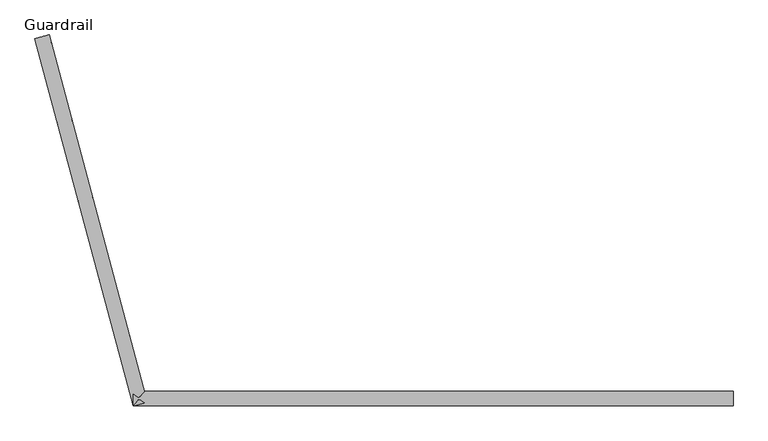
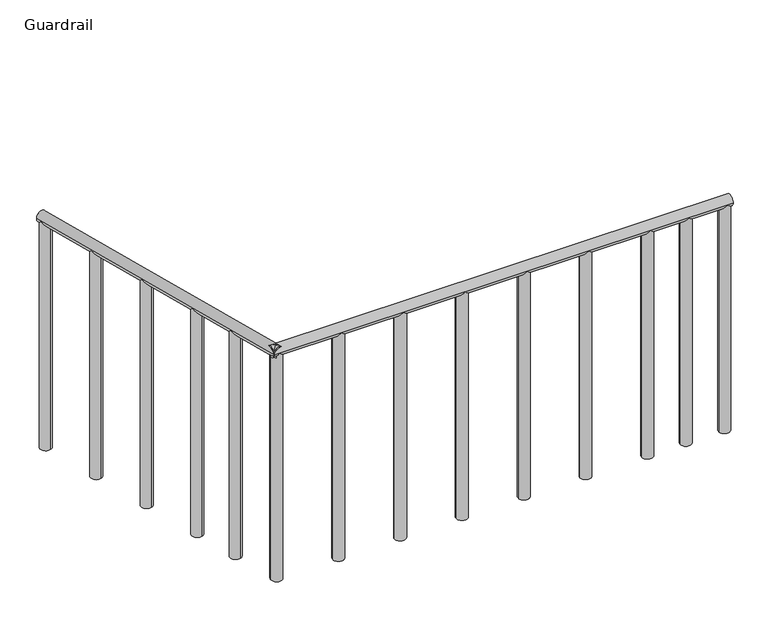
"""IFC4 building model written with IfcOpenShell, lengths in millimetres: railing geometry, Guardrail."""

from ifc_helpers import new_model, si_unit, frame, origin, place, context, project, spatial, circle_curve, ellipse_curve, source, transform, mapped, element, save
from ifc_brep_helpers import plane_surface, cylinder_surface, advanced_brep


def guardrail_6d44fef6(model_context):
    return source(origin(), model_context, "Body", "AdvancedBrep", [
        advanced_brep(
        [(13494.0940528, -4653.5653971, 4749.8), (13494.0940528, -4704.3653971, 4749.8), (15569.084118, -4653.5653971, 4749.8), (15569.084118, -4704.3653971, 4749.8)],
        [
            (0, 1, circle_curve(frame((13494.0940528, -4678.9653971, 4749.8), z_axis=(-1.0, 0.0, 0.0), x_axis=(0.0, 1.0, 0.0)), 25.4)),
            (1, 0, circle_curve(frame((13494.0940528, -4678.9653971, 4749.8), z_axis=(-1.0, 0.0, 0.0), x_axis=(0.0, 1.0, 0.0)), 25.4)),
            (2, 3, circle_curve(frame((15569.084118, -4678.9653971, 4749.8), z_axis=(1.0, 0.0, 0.0), x_axis=(0.0, 1.0, 0.0)), 25.4)),
            (3, 2, circle_curve(frame((15569.084118, -4678.9653971, 4749.8), z_axis=(1.0, 0.0, 0.0), x_axis=(0.0, 1.0, 0.0)), 25.4)),
            (0, 2),
            (3, 1),
        ],
        [
            plane_surface(frame((13494.0940528, -4653.5653971, 4724.4), z_axis=(-1.0, 0.0, 0.0), x_axis=(0.0, -1.0, 0.0))),
            plane_surface(frame((15569.084118, -4653.5653971, 4724.4), z_axis=(1.0, 0.0, 0.0), x_axis=(0.0, 1.0, 0.0))),
            cylinder_surface(frame((15569.084118, -4678.9653971, 4749.8), z_axis=(-1.0, 0.0, 0.0), x_axis=(0.0, 1.0, 0.0)), 25.4),
        ],
        [
            (0, [[1, 2]]),
            (1, [[3, 4]]),
            (2, [[-1, 5, -4, 6]]),
            (2, [[-2, -6, -3, -5]]),
        ],
    ),
        advanced_brep(
        [(15518.284118, -4678.9653971, 3657.6), (15569.084118, -4678.9653971, 3657.6), (15569.084118, -4678.9653971, 4727.8029547), (15565.6811633, -4691.6653971, 4727.8029547), (15521.6870728, -4691.6653971, 4727.8029547), (15518.284118, -4678.9653971, 4727.8029547), (15521.6870728, -4666.2653971, 4727.8029547), (15565.6811633, -4666.2653971, 4727.8029547)],
        [
            (0, 1, circle_curve(frame((15543.684118, -4678.9653971, 3657.6), z_axis=(0.0, 0.0, -1.0), x_axis=(-1.0, 0.0, 0.0)), 25.4)),
            (1, 0, circle_curve(frame((15543.684118, -4678.9653971, 3657.6), z_axis=(0.0, 0.0, -1.0), x_axis=(-1.0, 0.0, 0.0)), 25.4)),
            (2, 3, circle_curve(frame((15543.684118, -4678.9653971, 4727.8029547), z_axis=(0.0, 0.0, -1.0), x_axis=(-1.0, 0.0, 0.0)), 25.4)),
            (3, 4, ellipse_curve(frame((15543.684118, -4678.9653971, 4705.8059095), z_axis=(0.0, -0.8660254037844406, -0.4999999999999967), x_axis=(0.0, -0.4999999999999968, 0.8660254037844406)), 50.8, 25.4)),
            (4, 5, circle_curve(frame((15543.684118, -4678.9653971, 4727.8029547), z_axis=(0.0, 0.0, -1.0), x_axis=(-1.0, 0.0, 0.0)), 25.4)),
            (5, 0),
            (1, 2),
            (5, 6, circle_curve(frame((15543.684118, -4678.9653971, 4727.8029547), z_axis=(0.0, 0.0, -1.0), x_axis=(-1.0, 0.0, 0.0)), 25.4)),
            (6, 7, ellipse_curve(frame((15543.684118, -4678.9653971, 4705.8059095), z_axis=(0.0, 0.8660254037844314, -0.5000000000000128), x_axis=(0.0, 0.5000000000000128, 0.8660254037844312)), 50.8, 25.4)),
            (7, 2, circle_curve(frame((15543.684118, -4678.9653971, 4727.8029547), z_axis=(0.0, 0.0, -1.0), x_axis=(-1.0, 0.0, 0.0)), 25.4)),
            (4, 3),
            (7, 6),
        ],
        [
            plane_surface(frame((15518.284118, -4678.9653971, 3657.6), z_axis=(0.0, 0.0, -1.0), x_axis=(0.0, 1.0, 0.0))),
            cylinder_surface(frame((15543.684118, -4678.9653971, 3657.6), z_axis=(0.0, 0.0, 1.0), x_axis=(-1.0, 0.0, 0.0)), 25.4),
            plane_surface(frame((18617.084118, -4678.9653971, 4727.8029547), z_axis=(0.0, 0.0, 1.0), x_axis=(0.0, 1.0, 0.0))),
            plane_surface(frame((18617.084118, -4698.0153971, 4738.8014774), z_axis=(0.0, 0.8660254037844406, 0.4999999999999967), x_axis=(0.0, 0.4999999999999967, -0.8660254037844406))),
            plane_surface(frame((18617.084118, -4659.9153971, 4738.8014774), z_axis=(0.0, -0.8660254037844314, 0.5000000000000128), x_axis=(0.0, 0.5000000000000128, 0.8660254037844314))),
        ],
        [
            (0, [[1, 2]]),
            (1, [[3, 4, 5, 6, -2, 7]]),
            (1, [[8, 9, 10, -7, -1, -6]]),
            (2, [[-5, 11, -3, -10, 12, -8]]),
            (3, [[-4, -11]]),
            (4, [[-9, -12]]),
        ],
    ),
        advanced_brep(
        [(15344.3890854, -4678.9653971, 3657.6), (15395.1890854, -4678.9653971, 3657.6), (15395.1890854, -4678.9653971, 4727.8029547), (15391.7861307, -4691.6653971, 4727.8029547), (15347.7920402, -4691.6653971, 4727.8029547), (15344.3890854, -4678.9653971, 4727.8029547), (15347.7920402, -4666.2653971, 4727.8029547), (15391.7861307, -4666.2653971, 4727.8029547)],
        [
            (0, 1, circle_curve(frame((15369.7890854, -4678.9653971, 3657.6), z_axis=(0.0, 0.0, -1.0), x_axis=(-1.0, 0.0, 0.0)), 25.4)),
            (1, 0, circle_curve(frame((15369.7890854, -4678.9653971, 3657.6), z_axis=(0.0, 0.0, -1.0), x_axis=(-1.0, 0.0, 0.0)), 25.4)),
            (2, 3, circle_curve(frame((15369.7890854, -4678.9653971, 4727.8029547), z_axis=(0.0, 0.0, -1.0), x_axis=(-1.0, 0.0, 0.0)), 25.4)),
            (3, 4, ellipse_curve(frame((15369.7890854, -4678.9653971, 4705.8059095), z_axis=(0.0, -0.8660254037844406, -0.4999999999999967), x_axis=(0.0, -0.4999999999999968, 0.8660254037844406)), 50.8, 25.4)),
            (4, 5, circle_curve(frame((15369.7890854, -4678.9653971, 4727.8029547), z_axis=(0.0, 0.0, -1.0), x_axis=(-1.0, 0.0, 0.0)), 25.4)),
            (5, 0),
            (1, 2),
            (5, 6, circle_curve(frame((15369.7890854, -4678.9653971, 4727.8029547), z_axis=(0.0, 0.0, -1.0), x_axis=(-1.0, 0.0, 0.0)), 25.4)),
            (6, 7, ellipse_curve(frame((15369.7890854, -4678.9653971, 4705.8059095), z_axis=(0.0, 0.8660254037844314, -0.5000000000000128), x_axis=(0.0, 0.5000000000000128, 0.8660254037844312)), 50.8, 25.4)),
            (7, 2, circle_curve(frame((15369.7890854, -4678.9653971, 4727.8029547), z_axis=(0.0, 0.0, -1.0), x_axis=(-1.0, 0.0, 0.0)), 25.4)),
            (4, 3),
            (7, 6),
        ],
        [
            plane_surface(frame((15344.3890854, -4678.9653971, 3657.6), z_axis=(0.0, 0.0, -1.0), x_axis=(0.0, 1.0, 0.0))),
            cylinder_surface(frame((15369.7890854, -4678.9653971, 3657.6), z_axis=(0.0, 0.0, 1.0), x_axis=(-1.0, 0.0, 0.0)), 25.4),
            plane_surface(frame((18617.084118, -4678.9653971, 4727.8029547), z_axis=(0.0, 0.0, 1.0), x_axis=(0.0, 1.0, 0.0))),
            plane_surface(frame((18617.084118, -4698.0153971, 4738.8014774), z_axis=(0.0, 0.8660254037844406, 0.4999999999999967), x_axis=(0.0, 0.4999999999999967, -0.8660254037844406))),
            plane_surface(frame((18617.084118, -4659.9153971, 4738.8014774), z_axis=(0.0, -0.8660254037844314, 0.5000000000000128), x_axis=(0.0, 0.5000000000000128, 0.8660254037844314))),
        ],
        [
            (0, [[1, 2]]),
            (1, [[3, 4, 5, 6, -2, 7]]),
            (1, [[8, 9, 10, -7, -1, -6]]),
            (2, [[-5, 11, -3, -10, 12, -8]]),
            (3, [[-4, -11]]),
            (4, [[-9, -12]]),
        ],
    ),
        advanced_brep(
        [(15170.4940528, -4678.9653971, 3657.6), (15221.2940528, -4678.9653971, 3657.6), (15221.2940528, -4678.9653971, 4727.8029547), (15217.8910981, -4691.6653971, 4727.8029547), (15173.8970075, -4691.6653971, 4727.8029547), (15170.4940528, -4678.9653971, 4727.8029547), (15173.8970075, -4666.2653971, 4727.8029547), (15217.8910981, -4666.2653971, 4727.8029547)],
        [
            (0, 1, circle_curve(frame((15195.8940528, -4678.9653971, 3657.6), z_axis=(0.0, 0.0, -1.0), x_axis=(-1.0, 0.0, 0.0)), 25.4)),
            (1, 0, circle_curve(frame((15195.8940528, -4678.9653971, 3657.6), z_axis=(0.0, 0.0, -1.0), x_axis=(-1.0, 0.0, 0.0)), 25.4)),
            (2, 3, circle_curve(frame((15195.8940528, -4678.9653971, 4727.8029547), z_axis=(0.0, 0.0, -1.0), x_axis=(-1.0, 0.0, 0.0)), 25.4)),
            (3, 4, ellipse_curve(frame((15195.8940528, -4678.9653971, 4705.8059095), z_axis=(0.0, -0.8660254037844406, -0.4999999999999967), x_axis=(0.0, -0.4999999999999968, 0.8660254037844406)), 50.8, 25.4)),
            (4, 5, circle_curve(frame((15195.8940528, -4678.9653971, 4727.8029547), z_axis=(0.0, 0.0, -1.0), x_axis=(-1.0, 0.0, 0.0)), 25.4)),
            (5, 0),
            (1, 2),
            (5, 6, circle_curve(frame((15195.8940528, -4678.9653971, 4727.8029547), z_axis=(0.0, 0.0, -1.0), x_axis=(-1.0, 0.0, 0.0)), 25.4)),
            (6, 7, ellipse_curve(frame((15195.8940528, -4678.9653971, 4705.8059095), z_axis=(0.0, 0.8660254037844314, -0.5000000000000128), x_axis=(0.0, 0.5000000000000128, 0.8660254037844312)), 50.8, 25.4)),
            (7, 2, circle_curve(frame((15195.8940528, -4678.9653971, 4727.8029547), z_axis=(0.0, 0.0, -1.0), x_axis=(-1.0, 0.0, 0.0)), 25.4)),
            (4, 3),
            (7, 6),
        ],
        [
            plane_surface(frame((15170.4940528, -4678.9653971, 3657.6), z_axis=(0.0, 0.0, -1.0), x_axis=(0.0, 1.0, 0.0))),
            cylinder_surface(frame((15195.8940528, -4678.9653971, 3657.6), z_axis=(0.0, 0.0, 1.0), x_axis=(-1.0, 0.0, 0.0)), 25.4),
            plane_surface(frame((18617.084118, -4678.9653971, 4727.8029547), z_axis=(0.0, 0.0, 1.0), x_axis=(0.0, 1.0, 0.0))),
            plane_surface(frame((18617.084118, -4698.0153971, 4738.8014774), z_axis=(0.0, 0.8660254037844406, 0.4999999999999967), x_axis=(0.0, 0.4999999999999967, -0.8660254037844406))),
            plane_surface(frame((18617.084118, -4659.9153971, 4738.8014774), z_axis=(0.0, -0.8660254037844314, 0.5000000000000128), x_axis=(0.0, 0.5000000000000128, 0.8660254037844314))),
        ],
        [
            (0, [[1, 2]]),
            (1, [[3, 4, 5, 6, -2, 7]]),
            (1, [[8, 9, 10, -7, -1, -6]]),
            (2, [[-5, 11, -3, -10, 12, -8]]),
            (3, [[-4, -11]]),
            (4, [[-9, -12]]),
        ],
    ),
        advanced_brep(
        [(14891.0940528, -4678.9653971, 3657.6), (14941.8940528, -4678.9653971, 3657.6), (14941.8940528, -4678.9653971, 4727.8029547), (14938.4910981, -4691.6653971, 4727.8029547), (14894.4970075, -4691.6653971, 4727.8029547), (14891.0940528, -4678.9653971, 4727.8029547), (14894.4970075, -4666.2653971, 4727.8029547), (14938.4910981, -4666.2653971, 4727.8029547)],
        [
            (0, 1, circle_curve(frame((14916.4940528, -4678.9653971, 3657.6), z_axis=(0.0, 0.0, -1.0), x_axis=(-1.0, 0.0, 0.0)), 25.4)),
            (1, 0, circle_curve(frame((14916.4940528, -4678.9653971, 3657.6), z_axis=(0.0, 0.0, -1.0), x_axis=(-1.0, 0.0, 0.0)), 25.4)),
            (2, 3, circle_curve(frame((14916.4940528, -4678.9653971, 4727.8029547), z_axis=(0.0, 0.0, -1.0), x_axis=(-1.0, 0.0, 0.0)), 25.4)),
            (3, 4, ellipse_curve(frame((14916.4940528, -4678.9653971, 4705.8059095), z_axis=(0.0, -0.8660254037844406, -0.4999999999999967), x_axis=(0.0, -0.4999999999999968, 0.8660254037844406)), 50.8, 25.4)),
            (4, 5, circle_curve(frame((14916.4940528, -4678.9653971, 4727.8029547), z_axis=(0.0, 0.0, -1.0), x_axis=(-1.0, 0.0, 0.0)), 25.4)),
            (5, 0),
            (1, 2),
            (5, 6, circle_curve(frame((14916.4940528, -4678.9653971, 4727.8029547), z_axis=(0.0, 0.0, -1.0), x_axis=(-1.0, 0.0, 0.0)), 25.4)),
            (6, 7, ellipse_curve(frame((14916.4940528, -4678.9653971, 4705.8059095), z_axis=(0.0, 0.8660254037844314, -0.5000000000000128), x_axis=(0.0, 0.5000000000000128, 0.8660254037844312)), 50.8, 25.4)),
            (7, 2, circle_curve(frame((14916.4940528, -4678.9653971, 4727.8029547), z_axis=(0.0, 0.0, -1.0), x_axis=(-1.0, 0.0, 0.0)), 25.4)),
            (4, 3),
            (7, 6),
        ],
        [
            plane_surface(frame((14891.0940528, -4678.9653971, 3657.6), z_axis=(0.0, 0.0, -1.0), x_axis=(0.0, 1.0, 0.0))),
            cylinder_surface(frame((14916.4940528, -4678.9653971, 3657.6), z_axis=(0.0, 0.0, 1.0), x_axis=(-1.0, 0.0, 0.0)), 25.4),
            plane_surface(frame((18617.084118, -4678.9653971, 4727.8029547), z_axis=(0.0, 0.0, 1.0), x_axis=(0.0, 1.0, 0.0))),
            plane_surface(frame((18617.084118, -4698.0153971, 4738.8014774), z_axis=(0.0, 0.8660254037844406, 0.4999999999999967), x_axis=(0.0, 0.4999999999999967, -0.8660254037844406))),
            plane_surface(frame((18617.084118, -4659.9153971, 4738.8014774), z_axis=(0.0, -0.8660254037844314, 0.5000000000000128), x_axis=(0.0, 0.5000000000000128, 0.8660254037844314))),
        ],
        [
            (0, [[1, 2]]),
            (1, [[3, 4, 5, 6, -2, 7]]),
            (1, [[8, 9, 10, -7, -1, -6]]),
            (2, [[-5, 11, -3, -10, 12, -8]]),
            (3, [[-4, -11]]),
            (4, [[-9, -12]]),
        ],
    ),
        advanced_brep(
        [(14611.6940528, -4678.9653971, 3657.6), (14662.4940528, -4678.9653971, 3657.6), (14662.4940528, -4678.9653971, 4727.8029547), (14659.0910981, -4691.6653971, 4727.8029547), (14615.0970075, -4691.6653971, 4727.8029547), (14611.6940528, -4678.9653971, 4727.8029547), (14615.0970075, -4666.2653971, 4727.8029547), (14659.0910981, -4666.2653971, 4727.8029547)],
        [
            (0, 1, circle_curve(frame((14637.0940528, -4678.9653971, 3657.6), z_axis=(0.0, 0.0, -1.0), x_axis=(-1.0, 0.0, 0.0)), 25.4)),
            (1, 0, circle_curve(frame((14637.0940528, -4678.9653971, 3657.6), z_axis=(0.0, 0.0, -1.0), x_axis=(-1.0, 0.0, 0.0)), 25.4)),
            (2, 3, circle_curve(frame((14637.0940528, -4678.9653971, 4727.8029547), z_axis=(0.0, 0.0, -1.0), x_axis=(-1.0, 0.0, 0.0)), 25.4)),
            (3, 4, ellipse_curve(frame((14637.0940528, -4678.9653971, 4705.8059095), z_axis=(0.0, -0.8660254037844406, -0.4999999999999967), x_axis=(0.0, -0.4999999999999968, 0.8660254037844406)), 50.8, 25.4)),
            (4, 5, circle_curve(frame((14637.0940528, -4678.9653971, 4727.8029547), z_axis=(0.0, 0.0, -1.0), x_axis=(-1.0, 0.0, 0.0)), 25.4)),
            (5, 0),
            (1, 2),
            (5, 6, circle_curve(frame((14637.0940528, -4678.9653971, 4727.8029547), z_axis=(0.0, 0.0, -1.0), x_axis=(-1.0, 0.0, 0.0)), 25.4)),
            (6, 7, ellipse_curve(frame((14637.0940528, -4678.9653971, 4705.8059095), z_axis=(0.0, 0.8660254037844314, -0.5000000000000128), x_axis=(0.0, 0.5000000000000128, 0.8660254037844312)), 50.8, 25.4)),
            (7, 2, circle_curve(frame((14637.0940528, -4678.9653971, 4727.8029547), z_axis=(0.0, 0.0, -1.0), x_axis=(-1.0, 0.0, 0.0)), 25.4)),
            (4, 3),
            (7, 6),
        ],
        [
            plane_surface(frame((14611.6940528, -4678.9653971, 3657.6), z_axis=(0.0, 0.0, -1.0), x_axis=(0.0, 1.0, 0.0))),
            cylinder_surface(frame((14637.0940528, -4678.9653971, 3657.6), z_axis=(0.0, 0.0, 1.0), x_axis=(-1.0, 0.0, 0.0)), 25.4),
            plane_surface(frame((18617.084118, -4678.9653971, 4727.8029547), z_axis=(0.0, 0.0, 1.0), x_axis=(0.0, 1.0, 0.0))),
            plane_surface(frame((18617.084118, -4698.0153971, 4738.8014774), z_axis=(0.0, 0.8660254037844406, 0.4999999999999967), x_axis=(0.0, 0.4999999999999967, -0.8660254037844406))),
            plane_surface(frame((18617.084118, -4659.9153971, 4738.8014774), z_axis=(0.0, -0.8660254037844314, 0.5000000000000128), x_axis=(0.0, 0.5000000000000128, 0.8660254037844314))),
        ],
        [
            (0, [[1, 2]]),
            (1, [[3, 4, 5, 6, -2, 7]]),
            (1, [[8, 9, 10, -7, -1, -6]]),
            (2, [[-5, 11, -3, -10, 12, -8]]),
            (3, [[-4, -11]]),
            (4, [[-9, -12]]),
        ],
    ),
        advanced_brep(
        [(14332.2940528, -4678.9653971, 3657.6), (14383.0940528, -4678.9653971, 3657.6), (14383.0940528, -4678.9653971, 4727.8029547), (14379.6910981, -4691.6653971, 4727.8029547), (14335.6970075, -4691.6653971, 4727.8029547), (14332.2940528, -4678.9653971, 4727.8029547), (14335.6970075, -4666.2653971, 4727.8029547), (14379.6910981, -4666.2653971, 4727.8029547)],
        [
            (0, 1, circle_curve(frame((14357.6940528, -4678.9653971, 3657.6), z_axis=(0.0, 0.0, -1.0), x_axis=(-1.0, 0.0, 0.0)), 25.4)),
            (1, 0, circle_curve(frame((14357.6940528, -4678.9653971, 3657.6), z_axis=(0.0, 0.0, -1.0), x_axis=(-1.0, 0.0, 0.0)), 25.4)),
            (2, 3, circle_curve(frame((14357.6940528, -4678.9653971, 4727.8029547), z_axis=(0.0, 0.0, -1.0), x_axis=(-1.0, 0.0, 0.0)), 25.4)),
            (3, 4, ellipse_curve(frame((14357.6940528, -4678.9653971, 4705.8059095), z_axis=(0.0, -0.8660254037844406, -0.4999999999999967), x_axis=(0.0, -0.4999999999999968, 0.8660254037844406)), 50.8, 25.4)),
            (4, 5, circle_curve(frame((14357.6940528, -4678.9653971, 4727.8029547), z_axis=(0.0, 0.0, -1.0), x_axis=(-1.0, 0.0, 0.0)), 25.4)),
            (5, 0),
            (1, 2),
            (5, 6, circle_curve(frame((14357.6940528, -4678.9653971, 4727.8029547), z_axis=(0.0, 0.0, -1.0), x_axis=(-1.0, 0.0, 0.0)), 25.4)),
            (6, 7, ellipse_curve(frame((14357.6940528, -4678.9653971, 4705.8059095), z_axis=(0.0, 0.8660254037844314, -0.5000000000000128), x_axis=(0.0, 0.5000000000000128, 0.8660254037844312)), 50.8, 25.4)),
            (7, 2, circle_curve(frame((14357.6940528, -4678.9653971, 4727.8029547), z_axis=(0.0, 0.0, -1.0), x_axis=(-1.0, 0.0, 0.0)), 25.4)),
            (4, 3),
            (7, 6),
        ],
        [
            plane_surface(frame((14332.2940528, -4678.9653971, 3657.6), z_axis=(0.0, 0.0, -1.0), x_axis=(0.0, 1.0, 0.0))),
            cylinder_surface(frame((14357.6940528, -4678.9653971, 3657.6), z_axis=(0.0, 0.0, 1.0), x_axis=(-1.0, 0.0, 0.0)), 25.4),
            plane_surface(frame((18617.084118, -4678.9653971, 4727.8029547), z_axis=(0.0, 0.0, 1.0), x_axis=(0.0, 1.0, 0.0))),
            plane_surface(frame((18617.084118, -4698.0153971, 4738.8014774), z_axis=(0.0, 0.8660254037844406, 0.4999999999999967), x_axis=(0.0, 0.4999999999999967, -0.8660254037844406))),
            plane_surface(frame((18617.084118, -4659.9153971, 4738.8014774), z_axis=(0.0, -0.8660254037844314, 0.5000000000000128), x_axis=(0.0, 0.5000000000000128, 0.8660254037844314))),
        ],
        [
            (0, [[1, 2]]),
            (1, [[3, 4, 5, 6, -2, 7]]),
            (1, [[8, 9, 10, -7, -1, -6]]),
            (2, [[-5, 11, -3, -10, 12, -8]]),
            (3, [[-4, -11]]),
            (4, [[-9, -12]]),
        ],
    ),
        advanced_brep(
        [(14052.8940528, -4678.9653971, 3657.6), (14103.6940528, -4678.9653971, 3657.6), (14103.6940528, -4678.9653971, 4727.8029547), (14100.2910981, -4691.6653971, 4727.8029547), (14056.2970075, -4691.6653971, 4727.8029547), (14052.8940528, -4678.9653971, 4727.8029547), (14056.2970075, -4666.2653971, 4727.8029547), (14100.2910981, -4666.2653971, 4727.8029547)],
        [
            (0, 1, circle_curve(frame((14078.2940528, -4678.9653971, 3657.6), z_axis=(0.0, 0.0, -1.0), x_axis=(-1.0, 0.0, 0.0)), 25.4)),
            (1, 0, circle_curve(frame((14078.2940528, -4678.9653971, 3657.6), z_axis=(0.0, 0.0, -1.0), x_axis=(-1.0, 0.0, 0.0)), 25.4)),
            (2, 3, circle_curve(frame((14078.2940528, -4678.9653971, 4727.8029547), z_axis=(0.0, 0.0, -1.0), x_axis=(-1.0, 0.0, 0.0)), 25.4)),
            (3, 4, ellipse_curve(frame((14078.2940528, -4678.9653971, 4705.8059095), z_axis=(0.0, -0.8660254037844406, -0.4999999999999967), x_axis=(0.0, -0.4999999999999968, 0.8660254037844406)), 50.8, 25.4)),
            (4, 5, circle_curve(frame((14078.2940528, -4678.9653971, 4727.8029547), z_axis=(0.0, 0.0, -1.0), x_axis=(-1.0, 0.0, 0.0)), 25.4)),
            (5, 0),
            (1, 2),
            (5, 6, circle_curve(frame((14078.2940528, -4678.9653971, 4727.8029547), z_axis=(0.0, 0.0, -1.0), x_axis=(-1.0, 0.0, 0.0)), 25.4)),
            (6, 7, ellipse_curve(frame((14078.2940528, -4678.9653971, 4705.8059095), z_axis=(0.0, 0.8660254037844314, -0.5000000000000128), x_axis=(0.0, 0.5000000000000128, 0.8660254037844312)), 50.8, 25.4)),
            (7, 2, circle_curve(frame((14078.2940528, -4678.9653971, 4727.8029547), z_axis=(0.0, 0.0, -1.0), x_axis=(-1.0, 0.0, 0.0)), 25.4)),
            (4, 3),
            (7, 6),
        ],
        [
            plane_surface(frame((14052.8940528, -4678.9653971, 3657.6), z_axis=(0.0, 0.0, -1.0), x_axis=(0.0, 1.0, 0.0))),
            cylinder_surface(frame((14078.2940528, -4678.9653971, 3657.6), z_axis=(0.0, 0.0, 1.0), x_axis=(-1.0, 0.0, 0.0)), 25.4),
            plane_surface(frame((18617.084118, -4678.9653971, 4727.8029547), z_axis=(0.0, 0.0, 1.0), x_axis=(0.0, 1.0, 0.0))),
            plane_surface(frame((18617.084118, -4698.0153971, 4738.8014774), z_axis=(0.0, 0.8660254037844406, 0.4999999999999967), x_axis=(0.0, 0.4999999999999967, -0.8660254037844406))),
            plane_surface(frame((18617.084118, -4659.9153971, 4738.8014774), z_axis=(0.0, -0.8660254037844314, 0.5000000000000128), x_axis=(0.0, 0.5000000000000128, 0.8660254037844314))),
        ],
        [
            (0, [[1, 2]]),
            (1, [[3, 4, 5, 6, -2, 7]]),
            (1, [[8, 9, 10, -7, -1, -6]]),
            (2, [[-5, 11, -3, -10, 12, -8]]),
            (3, [[-4, -11]]),
            (4, [[-9, -12]]),
        ],
    ),
        advanced_brep(
        [(13773.4940528, -4678.9653971, 3657.6), (13824.2940528, -4678.9653971, 3657.6), (13824.2940528, -4678.9653971, 4727.8029547), (13820.8910981, -4691.6653971, 4727.8029547), (13776.8970075, -4691.6653971, 4727.8029547), (13773.4940528, -4678.9653971, 4727.8029547), (13776.8970075, -4666.2653971, 4727.8029547), (13820.8910981, -4666.2653971, 4727.8029547)],
        [
            (0, 1, circle_curve(frame((13798.8940528, -4678.9653971, 3657.6), z_axis=(0.0, 0.0, -1.0), x_axis=(-1.0, 0.0, 0.0)), 25.4)),
            (1, 0, circle_curve(frame((13798.8940528, -4678.9653971, 3657.6), z_axis=(0.0, 0.0, -1.0), x_axis=(-1.0, 0.0, 0.0)), 25.4)),
            (2, 3, circle_curve(frame((13798.8940528, -4678.9653971, 4727.8029547), z_axis=(0.0, 0.0, -1.0), x_axis=(-1.0, 0.0, 0.0)), 25.4)),
            (3, 4, ellipse_curve(frame((13798.8940528, -4678.9653971, 4705.8059095), z_axis=(0.0, -0.8660254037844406, -0.4999999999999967), x_axis=(0.0, -0.4999999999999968, 0.8660254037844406)), 50.8, 25.4)),
            (4, 5, circle_curve(frame((13798.8940528, -4678.9653971, 4727.8029547), z_axis=(0.0, 0.0, -1.0), x_axis=(-1.0, 0.0, 0.0)), 25.4)),
            (5, 0),
            (1, 2),
            (5, 6, circle_curve(frame((13798.8940528, -4678.9653971, 4727.8029547), z_axis=(0.0, 0.0, -1.0), x_axis=(-1.0, 0.0, 0.0)), 25.4)),
            (6, 7, ellipse_curve(frame((13798.8940528, -4678.9653971, 4705.8059095), z_axis=(0.0, 0.8660254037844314, -0.5000000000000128), x_axis=(0.0, 0.5000000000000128, 0.8660254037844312)), 50.8, 25.4)),
            (7, 2, circle_curve(frame((13798.8940528, -4678.9653971, 4727.8029547), z_axis=(0.0, 0.0, -1.0), x_axis=(-1.0, 0.0, 0.0)), 25.4)),
            (4, 3),
            (7, 6),
        ],
        [
            plane_surface(frame((13773.4940528, -4678.9653971, 3657.6), z_axis=(0.0, 0.0, -1.0), x_axis=(0.0, 1.0, 0.0))),
            cylinder_surface(frame((13798.8940528, -4678.9653971, 3657.6), z_axis=(0.0, 0.0, 1.0), x_axis=(-1.0, 0.0, 0.0)), 25.4),
            plane_surface(frame((18617.084118, -4678.9653971, 4727.8029547), z_axis=(0.0, 0.0, 1.0), x_axis=(0.0, 1.0, 0.0))),
            plane_surface(frame((18617.084118, -4698.0153971, 4738.8014774), z_axis=(0.0, 0.8660254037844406, 0.4999999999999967), x_axis=(0.0, 0.4999999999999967, -0.8660254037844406))),
            plane_surface(frame((18617.084118, -4659.9153971, 4738.8014774), z_axis=(0.0, -0.8660254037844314, 0.5000000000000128), x_axis=(0.0, 0.5000000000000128, 0.8660254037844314))),
        ],
        [
            (0, [[1, 2]]),
            (1, [[3, 4, 5, 6, -2, 7]]),
            (1, [[8, 9, 10, -7, -1, -6]]),
            (2, [[-5, 11, -3, -10, 12, -8]]),
            (3, [[-4, -11]]),
            (4, [[-9, -12]]),
        ],
    ),
        advanced_brep(
        [(13494.0940528, -4678.9653971, 3657.6), (13544.8940528, -4678.9653971, 3657.6), (13544.8940528, -4678.9653971, 4727.8029547), (13541.4910981, -4691.6653971, 4727.8029547), (13497.4970075, -4691.6653971, 4727.8029547), (13494.0940528, -4678.9653971, 4727.8029547), (13497.4970075, -4666.2653971, 4727.8029547), (13541.4910981, -4666.2653971, 4727.8029547)],
        [
            (0, 1, circle_curve(frame((13519.4940528, -4678.9653971, 3657.6), z_axis=(0.0, 0.0, -1.0), x_axis=(-1.0, 0.0, 0.0)), 25.4)),
            (1, 0, circle_curve(frame((13519.4940528, -4678.9653971, 3657.6), z_axis=(0.0, 0.0, -1.0), x_axis=(-1.0, 0.0, 0.0)), 25.4)),
            (2, 3, circle_curve(frame((13519.4940528, -4678.9653971, 4727.8029547), z_axis=(0.0, 0.0, -1.0), x_axis=(-1.0, 0.0, 0.0)), 25.4)),
            (3, 4, ellipse_curve(frame((13519.4940528, -4678.9653971, 4705.8059095), z_axis=(0.0, -0.8660254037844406, -0.4999999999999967), x_axis=(0.0, -0.4999999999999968, 0.8660254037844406)), 50.8, 25.4)),
            (4, 5, circle_curve(frame((13519.4940528, -4678.9653971, 4727.8029547), z_axis=(0.0, 0.0, -1.0), x_axis=(-1.0, 0.0, 0.0)), 25.4)),
            (5, 0),
            (1, 2),
            (5, 6, circle_curve(frame((13519.4940528, -4678.9653971, 4727.8029547), z_axis=(0.0, 0.0, -1.0), x_axis=(-1.0, 0.0, 0.0)), 25.4)),
            (6, 7, ellipse_curve(frame((13519.4940528, -4678.9653971, 4705.8059095), z_axis=(0.0, 0.8660254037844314, -0.5000000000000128), x_axis=(0.0, 0.5000000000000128, 0.8660254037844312)), 50.8, 25.4)),
            (7, 2, circle_curve(frame((13519.4940528, -4678.9653971, 4727.8029547), z_axis=(0.0, 0.0, -1.0), x_axis=(-1.0, 0.0, 0.0)), 25.4)),
            (4, 3),
            (7, 6),
        ],
        [
            plane_surface(frame((13494.0940528, -4678.9653971, 3657.6), z_axis=(0.0, 0.0, -1.0), x_axis=(0.0, 1.0, 0.0))),
            cylinder_surface(frame((13519.4940528, -4678.9653971, 3657.6), z_axis=(0.0, 0.0, 1.0), x_axis=(-1.0, 0.0, 0.0)), 25.4),
            plane_surface(frame((18617.084118, -4678.9653971, 4727.8029547), z_axis=(0.0, 0.0, 1.0), x_axis=(0.0, 1.0, 0.0))),
            plane_surface(frame((18617.084118, -4698.0153971, 4738.8014774), z_axis=(0.0, 0.8660254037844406, 0.4999999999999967), x_axis=(0.0, 0.4999999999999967, -0.8660254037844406))),
            plane_surface(frame((18617.084118, -4659.9153971, 4738.8014774), z_axis=(0.0, -0.8660254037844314, 0.5000000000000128), x_axis=(0.0, 0.5000000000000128, 0.8660254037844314))),
        ],
        [
            (0, [[1, 2]]),
            (1, [[3, 4, 5, 6, -2, 7]]),
            (1, [[8, 9, 10, -7, -1, -6]]),
            (2, [[-5, 11, -3, -10, 12, -8]]),
            (3, [[-4, -11]]),
            (4, [[-9, -12]]),
        ],
    ),
        advanced_brep(
        [(13202.8099085, -3421.0020434, 4749.8), (13153.7408766, -3434.1500509, 4749.8), (13543.1630848, -4691.2173896, 4749.8), (13494.0940528, -4704.3653971, 4749.8)],
        [
            (0, 1, circle_curve(frame((13178.2753926, -3427.5760471, 4749.8), z_axis=(-0.2588190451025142, 0.9659258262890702, 0.0), x_axis=(0.96592582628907, 0.25881904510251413, 0.0)), 25.4)),
            (1, 0, circle_curve(frame((13178.2753926, -3427.5760471, 4749.8), z_axis=(-0.2588190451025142, 0.9659258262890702, 0.0), x_axis=(0.96592582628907, 0.25881904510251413, 0.0)), 25.4)),
            (2, 3, circle_curve(frame((13518.6285688, -4697.7913934, 4749.8), z_axis=(0.2588190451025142, -0.9659258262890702, 0.0), x_axis=(0.96592582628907, 0.25881904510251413, 0.0)), 25.4)),
            (3, 2, circle_curve(frame((13518.6285688, -4697.7913934, 4749.8), z_axis=(0.2588190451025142, -0.9659258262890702, 0.0), x_axis=(0.96592582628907, 0.25881904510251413, 0.0)), 25.4)),
            (0, 2),
            (3, 1),
        ],
        [
            plane_surface(frame((13202.8099085, -3421.0020434, 4724.4), z_axis=(-0.25881904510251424, 0.9659258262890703, 0.0), x_axis=(0.9659258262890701, 0.2588190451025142, 0.0))),
            plane_surface(frame((13543.1630848, -4691.2173896, 4724.4), z_axis=(0.25881904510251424, -0.9659258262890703, 0.0), x_axis=(0.9659258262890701, 0.2588190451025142, 0.0))),
            cylinder_surface(frame((13518.6285688, -4697.7913934, 4749.8), z_axis=(-0.25881904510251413, 0.96592582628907, 0.0), x_axis=(0.96592582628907, 0.25881904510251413, 0.0)), 25.4),
        ],
        [
            (0, [[1, 2]]),
            (1, [[3, 4]]),
            (2, [[-1, 5, -4, 6]]),
            (2, [[-2, -6, -3, -5]]),
        ],
    ),
        advanced_brep(
        [(13450.3490387, -4442.968718, 3657.6), (13463.4970462, -4492.03775, 3657.6), (13463.4970462, -4492.03775, 4727.8029547), (13450.3490387, -4492.03775, 4727.8029547), (13438.9625302, -4449.5427218, 4727.8029547), (13450.3490387, -4442.968718, 4727.8029547), (13463.4970462, -4442.968718, 4727.8029547), (13474.8835547, -4485.4637463, 4727.8029547)],
        [
            (0, 1, circle_curve(frame((13456.9230425, -4467.503234, 3657.6), z_axis=(0.0, 0.0, -1.0), x_axis=(-0.25881904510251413, 0.96592582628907, 0.0)), 25.4)),
            (1, 0, circle_curve(frame((13456.9230425, -4467.503234, 3657.6), z_axis=(0.0, 0.0, -1.0), x_axis=(-0.25881904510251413, 0.96592582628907, 0.0)), 25.4)),
            (2, 3, circle_curve(frame((13456.9230425, -4467.503234, 4727.8029547), z_axis=(0.0, 0.0, -1.0), x_axis=(-0.25881904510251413, 0.96592582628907, 0.0)), 25.4)),
            (3, 4, ellipse_curve(frame((13456.9230425, -4467.503234, 4705.8059095), z_axis=(-0.8365163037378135, -0.22414386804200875, -0.49999999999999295), x_axis=(-0.4829629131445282, -0.12940952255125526, 0.8660254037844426)), 50.8, 25.4)),
            (4, 5, circle_curve(frame((13456.9230425, -4467.503234, 4727.8029547), z_axis=(0.0, 0.0, -1.0), x_axis=(-0.25881904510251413, 0.96592582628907, 0.0)), 25.4)),
            (5, 0),
            (1, 2),
            (5, 6, circle_curve(frame((13456.9230425, -4467.503234, 4727.8029547), z_axis=(0.0, 0.0, -1.0), x_axis=(-0.25881904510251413, 0.96592582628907, 0.0)), 25.4)),
            (6, 7, ellipse_curve(frame((13456.9230425, -4467.503234, 4705.8059095), z_axis=(0.8365163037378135, 0.22414386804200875, -0.49999999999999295), x_axis=(0.4829629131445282, 0.12940952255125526, 0.8660254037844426)), 50.8, 25.4)),
            (7, 2, circle_curve(frame((13456.9230425, -4467.503234, 4727.8029547), z_axis=(0.0, 0.0, -1.0), x_axis=(-0.25881904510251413, 0.96592582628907, 0.0)), 25.4)),
            (4, 3),
            (7, 6),
        ],
        [
            plane_surface(frame((13450.3490387, -4442.968718, 3657.6), z_axis=(0.0, 0.0, -1.0000000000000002), x_axis=(0.9659258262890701, 0.2588190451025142, 0.0))),
            cylinder_surface(frame((13456.9230425, -4467.503234, 3657.6), z_axis=(0.0, 0.0, 0.9999999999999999), x_axis=(-0.25881904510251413, 0.96592582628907, 0.0)), 25.4),
            plane_surface(frame((14307.5090183, -7641.9333119, 4727.8029547), z_axis=(0.0, 0.0, 1.0000000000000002), x_axis=(0.9659258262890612, 0.25881904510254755, 0.0))),
            plane_surface(frame((14289.1081313, -7646.8638147, 4738.8014774), z_axis=(0.8365163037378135, 0.22414386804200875, 0.49999999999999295), x_axis=(0.4829629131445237, 0.12940952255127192, -0.8660254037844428))),
            plane_surface(frame((14325.9099053, -7637.0028091, 4738.8014774), z_axis=(-0.8365163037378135, -0.22414386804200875, 0.49999999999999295), x_axis=(0.4829629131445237, 0.12940952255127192, 0.8660254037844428))),
        ],
        [
            (0, [[1, 2]]),
            (1, [[3, 4, 5, 6, -2, 7]]),
            (1, [[8, 9, 10, -7, -1, -6]]),
            (2, [[-5, 11, -3, -10, 12, -8]]),
            (3, [[-4, -11]]),
            (4, [[-9, -12]]),
        ],
    ),
        advanced_brep(
        [(13395.2175162, -4237.2150747, 3657.6), (13408.3655236, -4286.2841067, 3657.6), (13408.3655236, -4286.2841067, 4727.8029547), (13395.2175162, -4286.2841067, 4727.8029547), (13383.8310077, -4243.7890785, 4727.8029547), (13395.2175162, -4237.2150747, 4727.8029547), (13408.3655236, -4237.2150747, 4727.8029547), (13419.7520321, -4279.7101029, 4727.8029547)],
        [
            (0, 1, circle_curve(frame((13401.7915199, -4261.7495907, 3657.6), z_axis=(0.0, 0.0, -1.0), x_axis=(-0.25881904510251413, 0.96592582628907, 0.0)), 25.4)),
            (1, 0, circle_curve(frame((13401.7915199, -4261.7495907, 3657.6), z_axis=(0.0, 0.0, -1.0), x_axis=(-0.25881904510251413, 0.96592582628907, 0.0)), 25.4)),
            (2, 3, circle_curve(frame((13401.7915199, -4261.7495907, 4727.8029547), z_axis=(0.0, 0.0, -1.0), x_axis=(-0.25881904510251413, 0.96592582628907, 0.0)), 25.4)),
            (3, 4, ellipse_curve(frame((13401.7915199, -4261.7495907, 4705.8059095), z_axis=(-0.8365163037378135, -0.22414386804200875, -0.49999999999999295), x_axis=(-0.4829629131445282, -0.12940952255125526, 0.8660254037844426)), 50.8, 25.4)),
            (4, 5, circle_curve(frame((13401.7915199, -4261.7495907, 4727.8029547), z_axis=(0.0, 0.0, -1.0), x_axis=(-0.25881904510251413, 0.96592582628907, 0.0)), 25.4)),
            (5, 0),
            (1, 2),
            (5, 6, circle_curve(frame((13401.7915199, -4261.7495907, 4727.8029547), z_axis=(0.0, 0.0, -1.0), x_axis=(-0.25881904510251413, 0.96592582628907, 0.0)), 25.4)),
            (6, 7, ellipse_curve(frame((13401.7915199, -4261.7495907, 4705.8059095), z_axis=(0.8365163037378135, 0.22414386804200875, -0.49999999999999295), x_axis=(0.4829629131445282, 0.12940952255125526, 0.8660254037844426)), 50.8, 25.4)),
            (7, 2, circle_curve(frame((13401.7915199, -4261.7495907, 4727.8029547), z_axis=(0.0, 0.0, -1.0), x_axis=(-0.25881904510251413, 0.96592582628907, 0.0)), 25.4)),
            (6, 7),
            (3, 4),
        ],
        [
            plane_surface(frame((13395.2175162, -4237.2150747, 3657.6), z_axis=(0.0, 0.0, -1.0000000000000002), x_axis=(0.9659258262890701, 0.2588190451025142, 0.0))),
            cylinder_surface(frame((13401.7915199, -4261.7495907, 3657.6), z_axis=(0.0, 0.0, 0.9999999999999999), x_axis=(-0.25881904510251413, 0.96592582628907, 0.0)), 25.4),
            plane_surface(frame((14325.9099053, -7637.0028091, 4738.8014774), z_axis=(-0.8365163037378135, -0.22414386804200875, 0.49999999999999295), x_axis=(0.4829629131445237, 0.12940952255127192, 0.8660254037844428))),
            plane_surface(frame((14289.1081313, -7646.8638147, 4738.8014774), z_axis=(0.8365163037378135, 0.22414386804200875, 0.49999999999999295), x_axis=(0.4829629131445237, 0.12940952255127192, -0.8660254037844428))),
            plane_surface(frame((14307.5090183, -7641.9333119, 4727.8029547), z_axis=(0.0, 0.0, 1.0000000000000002), x_axis=(0.9659258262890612, 0.25881904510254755, 0.0))),
        ],
        [
            (0, [[1, 2]]),
            (1, [[3, 4, 5, 6, -2, 7]]),
            (1, [[8, 9, 10, -7, -1, -6]]),
            (2, [[-9, 11]]),
            (3, [[-4, 12]]),
            (4, [[-5, -12, -3, -10, -11, -8]]),
        ],
    ),
        advanced_brep(
        [(13322.903475, -3967.3353988, 3657.6), (13336.0514824, -4016.4044308, 3657.6), (13336.0514824, -4016.4044308, 4727.8029547), (13322.903475, -4016.4044308, 4727.8029547), (13311.5169665, -3973.9094026, 4727.8029547), (13322.903475, -3967.3353988, 4727.8029547), (13336.0514824, -3967.3353988, 4727.8029547), (13347.4379909, -4009.8304271, 4727.8029547)],
        [
            (0, 1, circle_curve(frame((13329.4774787, -3991.8699148, 3657.6), z_axis=(0.0, 0.0, -1.0), x_axis=(-0.25881904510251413, 0.96592582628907, 0.0)), 25.4)),
            (1, 0, circle_curve(frame((13329.4774787, -3991.8699148, 3657.6), z_axis=(0.0, 0.0, -1.0), x_axis=(-0.25881904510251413, 0.96592582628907, 0.0)), 25.4)),
            (2, 3, circle_curve(frame((13329.4774787, -3991.8699148, 4727.8029547), z_axis=(0.0, 0.0, -1.0), x_axis=(-0.25881904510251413, 0.96592582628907, 0.0)), 25.4)),
            (3, 4, ellipse_curve(frame((13329.4774787, -3991.8699148, 4705.8059095), z_axis=(-0.8365163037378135, -0.22414386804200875, -0.49999999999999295), x_axis=(-0.4829629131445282, -0.12940952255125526, 0.8660254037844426)), 50.8, 25.4)),
            (4, 5, circle_curve(frame((13329.4774787, -3991.8699148, 4727.8029547), z_axis=(0.0, 0.0, -1.0), x_axis=(-0.25881904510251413, 0.96592582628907, 0.0)), 25.4)),
            (5, 0),
            (1, 2),
            (5, 6, circle_curve(frame((13329.4774787, -3991.8699148, 4727.8029547), z_axis=(0.0, 0.0, -1.0), x_axis=(-0.25881904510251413, 0.96592582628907, 0.0)), 25.4)),
            (6, 7, ellipse_curve(frame((13329.4774787, -3991.8699148, 4705.8059095), z_axis=(0.8365163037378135, 0.22414386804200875, -0.49999999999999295), x_axis=(0.4829629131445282, 0.12940952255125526, 0.8660254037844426)), 50.8, 25.4)),
            (7, 2, circle_curve(frame((13329.4774787, -3991.8699148, 4727.8029547), z_axis=(0.0, 0.0, -1.0), x_axis=(-0.25881904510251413, 0.96592582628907, 0.0)), 25.4)),
            (6, 7),
            (3, 4),
        ],
        [
            plane_surface(frame((13322.903475, -3967.3353988, 3657.6), z_axis=(0.0, 0.0, -1.0000000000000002), x_axis=(0.9659258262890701, 0.2588190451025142, 0.0))),
            cylinder_surface(frame((13329.4774787, -3991.8699148, 3657.6), z_axis=(0.0, 0.0, 0.9999999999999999), x_axis=(-0.25881904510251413, 0.96592582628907, 0.0)), 25.4),
            plane_surface(frame((14325.9099053, -7637.0028091, 4738.8014774), z_axis=(-0.8365163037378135, -0.22414386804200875, 0.49999999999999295), x_axis=(0.4829629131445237, 0.12940952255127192, 0.8660254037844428))),
            plane_surface(frame((14289.1081313, -7646.8638147, 4738.8014774), z_axis=(0.8365163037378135, 0.22414386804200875, 0.49999999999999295), x_axis=(0.4829629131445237, 0.12940952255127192, -0.8660254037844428))),
            plane_surface(frame((14307.5090183, -7641.9333119, 4727.8029547), z_axis=(0.0, 0.0, 1.0000000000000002), x_axis=(0.9659258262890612, 0.25881904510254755, 0.0))),
        ],
        [
            (0, [[1, 2]]),
            (1, [[3, 4, 5, 6, -2, 7]]),
            (1, [[8, 9, 10, -7, -1, -6]]),
            (2, [[-9, 11]]),
            (3, [[-4, 12]]),
            (4, [[-5, -12, -3, -10, -11, -8]]),
        ],
    ),
        advanced_brep(
        [(13250.5894338, -3697.455723, 3657.6), (13263.7374412, -3746.524755, 3657.6), (13263.7374412, -3746.524755, 4727.8029547), (13250.5894338, -3746.524755, 4727.8029547), (13239.2029253, -3704.0297267, 4727.8029547), (13250.5894338, -3697.455723, 4727.8029547), (13263.7374412, -3697.455723, 4727.8029547), (13275.1239497, -3739.9507512, 4727.8029547)],
        [
            (0, 1, circle_curve(frame((13257.1634375, -3721.990239, 3657.6), z_axis=(0.0, 0.0, -1.0), x_axis=(-0.25881904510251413, 0.96592582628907, 0.0)), 25.4)),
            (1, 0, circle_curve(frame((13257.1634375, -3721.990239, 3657.6), z_axis=(0.0, 0.0, -1.0), x_axis=(-0.25881904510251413, 0.96592582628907, 0.0)), 25.4)),
            (2, 3, circle_curve(frame((13257.1634375, -3721.990239, 4727.8029547), z_axis=(0.0, 0.0, -1.0), x_axis=(-0.25881904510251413, 0.96592582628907, 0.0)), 25.4)),
            (3, 4, ellipse_curve(frame((13257.1634375, -3721.990239, 4705.8059095), z_axis=(-0.8365163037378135, -0.22414386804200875, -0.49999999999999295), x_axis=(-0.4829629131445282, -0.12940952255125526, 0.8660254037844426)), 50.8, 25.4)),
            (4, 5, circle_curve(frame((13257.1634375, -3721.990239, 4727.8029547), z_axis=(0.0, 0.0, -1.0), x_axis=(-0.25881904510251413, 0.96592582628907, 0.0)), 25.4)),
            (5, 0),
            (1, 2),
            (5, 6, circle_curve(frame((13257.1634375, -3721.990239, 4727.8029547), z_axis=(0.0, 0.0, -1.0), x_axis=(-0.25881904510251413, 0.96592582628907, 0.0)), 25.4)),
            (6, 7, ellipse_curve(frame((13257.1634375, -3721.990239, 4705.8059095), z_axis=(0.8365163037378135, 0.22414386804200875, -0.49999999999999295), x_axis=(0.4829629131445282, 0.12940952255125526, 0.8660254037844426)), 50.8, 25.4)),
            (7, 2, circle_curve(frame((13257.1634375, -3721.990239, 4727.8029547), z_axis=(0.0, 0.0, -1.0), x_axis=(-0.25881904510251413, 0.96592582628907, 0.0)), 25.4)),
            (6, 7),
            (3, 4),
        ],
        [
            plane_surface(frame((13250.5894338, -3697.455723, 3657.6), z_axis=(0.0, 0.0, -1.0000000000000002), x_axis=(0.9659258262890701, 0.2588190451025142, 0.0))),
            cylinder_surface(frame((13257.1634375, -3721.990239, 3657.6), z_axis=(0.0, 0.0, 0.9999999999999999), x_axis=(-0.25881904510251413, 0.96592582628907, 0.0)), 25.4),
            plane_surface(frame((14325.9099053, -7637.0028091, 4738.8014774), z_axis=(-0.8365163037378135, -0.22414386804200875, 0.49999999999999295), x_axis=(0.4829629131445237, 0.12940952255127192, 0.8660254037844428))),
            plane_surface(frame((14289.1081313, -7646.8638147, 4738.8014774), z_axis=(0.8365163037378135, 0.22414386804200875, 0.49999999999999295), x_axis=(0.4829629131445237, 0.12940952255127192, -0.8660254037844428))),
            plane_surface(frame((14307.5090183, -7641.9333119, 4727.8029547), z_axis=(0.0, 0.0, 1.0000000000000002), x_axis=(0.9659258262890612, 0.25881904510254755, 0.0))),
        ],
        [
            (0, [[1, 2]]),
            (1, [[3, 4, 5, 6, -2, 7]]),
            (1, [[8, 9, 10, -7, -1, -6]]),
            (2, [[-9, 11]]),
            (3, [[-4, 12]]),
            (4, [[-5, -12, -3, -10, -11, -8]]),
        ],
    ),
        advanced_brep(
        [(13178.2753926, -3427.5760471, 3657.6), (13191.4234, -3476.6450791, 3657.6), (13191.4234, -3476.6450791, 4727.8029547), (13178.2753926, -3476.6450791, 4727.8029547), (13166.8888841, -3434.1500509, 4727.8029547), (13178.2753926, -3427.5760471, 4727.8029547), (13191.4234, -3427.5760471, 4727.8029547), (13202.8099085, -3470.0710754, 4727.8029547)],
        [
            (0, 1, circle_curve(frame((13184.8493963, -3452.1105631, 3657.6), z_axis=(0.0, 0.0, -1.0), x_axis=(-0.25881904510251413, 0.96592582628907, 0.0)), 25.4)),
            (1, 0, circle_curve(frame((13184.8493963, -3452.1105631, 3657.6), z_axis=(0.0, 0.0, -1.0), x_axis=(-0.25881904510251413, 0.96592582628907, 0.0)), 25.4)),
            (2, 3, circle_curve(frame((13184.8493963, -3452.1105631, 4727.8029547), z_axis=(0.0, 0.0, -1.0), x_axis=(-0.25881904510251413, 0.96592582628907, 0.0)), 25.4)),
            (3, 4, ellipse_curve(frame((13184.8493963, -3452.1105631, 4705.8059095), z_axis=(-0.8365163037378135, -0.22414386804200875, -0.49999999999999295), x_axis=(-0.4829629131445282, -0.12940952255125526, 0.8660254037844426)), 50.8, 25.4)),
            (4, 5, circle_curve(frame((13184.8493963, -3452.1105631, 4727.8029547), z_axis=(0.0, 0.0, -1.0), x_axis=(-0.25881904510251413, 0.96592582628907, 0.0)), 25.4)),
            (5, 0),
            (1, 2),
            (5, 6, circle_curve(frame((13184.8493963, -3452.1105631, 4727.8029547), z_axis=(0.0, 0.0, -1.0), x_axis=(-0.25881904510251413, 0.96592582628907, 0.0)), 25.4)),
            (6, 7, ellipse_curve(frame((13184.8493963, -3452.1105631, 4705.8059095), z_axis=(0.8365163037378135, 0.22414386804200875, -0.49999999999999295), x_axis=(0.4829629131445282, 0.12940952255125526, 0.8660254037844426)), 50.8, 25.4)),
            (7, 2, circle_curve(frame((13184.8493963, -3452.1105631, 4727.8029547), z_axis=(0.0, 0.0, -1.0), x_axis=(-0.25881904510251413, 0.96592582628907, 0.0)), 25.4)),
            (6, 7),
            (3, 4),
        ],
        [
            plane_surface(frame((13178.2753926, -3427.5760471, 3657.6), z_axis=(0.0, 0.0, -1.0000000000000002), x_axis=(0.9659258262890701, 0.2588190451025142, 0.0))),
            cylinder_surface(frame((13184.8493963, -3452.1105631, 3657.6), z_axis=(0.0, 0.0, 0.9999999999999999), x_axis=(-0.25881904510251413, 0.96592582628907, 0.0)), 25.4),
            plane_surface(frame((14325.9099053, -7637.0028091, 4738.8014774), z_axis=(-0.8365163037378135, -0.22414386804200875, 0.49999999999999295), x_axis=(0.4829629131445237, 0.12940952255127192, 0.8660254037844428))),
            plane_surface(frame((14289.1081313, -7646.8638147, 4738.8014774), z_axis=(0.8365163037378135, 0.22414386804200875, 0.49999999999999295), x_axis=(0.4829629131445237, 0.12940952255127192, -0.8660254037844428))),
            plane_surface(frame((14307.5090183, -7641.9333119, 4727.8029547), z_axis=(0.0, 0.0, 1.0000000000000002), x_axis=(0.9659258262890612, 0.25881904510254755, 0.0))),
        ],
        [
            (0, [[1, 2]]),
            (1, [[3, 4, 5, 6, -2, 7]]),
            (1, [[8, 9, 10, -7, -1, -6]]),
            (2, [[-9, 11]]),
            (3, [[-4, 12]]),
            (4, [[-5, -12, -3, -10, -11, -8]]),
        ],
    ),
    ])


if __name__ == "__main__":
    model = new_model("IFC4")
    model_context = context("Model", 3, world=origin())
    ifc_project = project(units=[si_unit("LENGTHUNIT", "METRE", prefix="MILLI")], contexts=[model_context])
    site = spatial("IfcSite", under=ifc_project)
    building = spatial("IfcBuilding", under=site)
    placement = place(None, origin())
    guardrail_shape = guardrail_6d44fef6(model_context)
    element("IfcRailing", 1, ObjectType="Guardrail", at=placement, inside=building, context=model_context, shape_type="MappedRepresentation", body=[
        mapped(guardrail_shape, transform((0.0, 0.0, 0.0), x_axis=(1.0, 0.0, 0.0), y_axis=(0.0, 1.0, 0.0), z_axis=(0.0, 0.0, 1.0))),
    ])
    save(model, "model.ifc")
